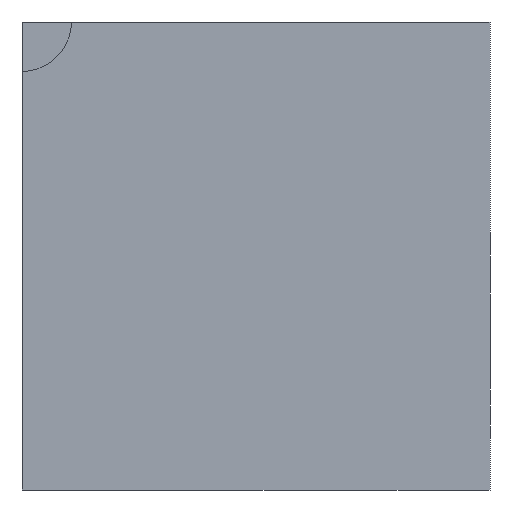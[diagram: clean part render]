
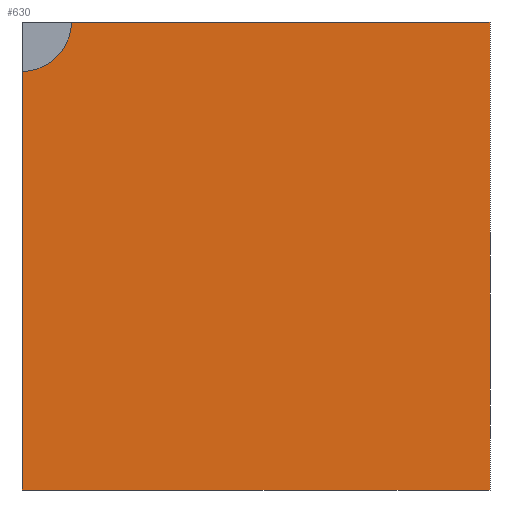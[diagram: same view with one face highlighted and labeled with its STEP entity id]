
A CAD part, front view. The second image highlights one B-rep face of the part: STEP entity #630.
In plain terms, the highlighted planar face has unit normal (0, -1, 0).
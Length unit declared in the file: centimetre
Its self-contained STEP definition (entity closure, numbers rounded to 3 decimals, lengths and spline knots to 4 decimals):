
#8 = LINE ( 'NONE', #439, #314 ) ;
#12 = DIRECTION ( 'NONE',  ( 0., 1., 0. ) ) ;
#50 = ORIENTED_EDGE ( 'NONE', *, *, #397, .T. ) ;
#60 = EDGE_CURVE ( 'NONE', #364, #680, #326, .T. ) ;
#62 = CARTESIAN_POINT ( 'NONE',  ( 0., 0., 1000. ) ) ;
#91 = ORIENTED_EDGE ( 'NONE', *, *, #143, .F. ) ;
#110 = CARTESIAN_POINT ( 'NONE',  ( 0., 0., 0. ) ) ;
#122 = EDGE_LOOP ( 'NONE', ( #91, #477, #274, #50, #678 ) ) ;
#132 = EDGE_CURVE ( 'NONE', #686, #531, #659, .T. ) ;
#141 = VECTOR ( 'NONE', #490, 100. ) ;
#143 = EDGE_CURVE ( 'NONE', #531, #364, #384, .T. ) ;
#153 = EDGE_CURVE ( 'NONE', #686, #400, #8, .T. ) ;
#170 = CARTESIAN_POINT ( 'NONE',  ( 0., 0., 1000. ) ) ;
#193 = CARTESIAN_POINT ( 'NONE',  ( 105.7115, 0., 1000. ) ) ;
#227 = LINE ( 'NONE', #429, #268 ) ;
#264 = DIRECTION ( 'NONE',  ( 1., 0., 0. ) ) ;
#268 = VECTOR ( 'NONE', #264, 100. ) ;
#273 = CARTESIAN_POINT ( 'NONE',  ( 1000., 0., 1000. ) ) ;
#274 = ORIENTED_EDGE ( 'NONE', *, *, #153, .T. ) ;
#281 = DIRECTION ( 'NONE',  ( 0., 0., -1. ) ) ;
#286 = CARTESIAN_POINT ( 'NONE',  ( 0., 0., 1000. ) ) ;
#314 = VECTOR ( 'NONE', #281, 100. ) ;
#326 = LINE ( 'NONE', #273, #480 ) ;
#333 = DIRECTION ( 'NONE',  ( 0., 0., -1. ) ) ;
#364 = VERTEX_POINT ( 'NONE', #391 ) ;
#384 = LINE ( 'NONE', #62, #141 ) ;
#391 = CARTESIAN_POINT ( 'NONE',  ( 1000., 0., 1000. ) ) ;
#397 = EDGE_CURVE ( 'NONE', #400, #680, #227, .T. ) ;
#400 = VERTEX_POINT ( 'NONE', #110 ) ;
#429 = CARTESIAN_POINT ( 'NONE',  ( 0., 0., 0. ) ) ;
#439 = CARTESIAN_POINT ( 'NONE',  ( 0., 0., 1000. ) ) ;
#440 = DIRECTION ( 'NONE',  ( 0., 0., 1. ) ) ;
#448 = FACE_OUTER_BOUND ( 'NONE', #122, .T. ) ;
#451 = CARTESIAN_POINT ( 'NONE',  ( 1000., 0., 0. ) ) ;
#477 = ORIENTED_EDGE ( 'NONE', *, *, #132, .F. ) ;
#480 = VECTOR ( 'NONE', #591, 100. ) ;
#490 = DIRECTION ( 'NONE',  ( 1., 0., 0. ) ) ;
#531 = VERTEX_POINT ( 'NONE', #193 ) ;
#547 = DIRECTION ( 'NONE',  ( 0., -1., 0. ) ) ;
#561 = CARTESIAN_POINT ( 'NONE',  ( 0., 0., 894.2885 ) ) ;
#591 = DIRECTION ( 'NONE',  ( 0., 0., -1. ) ) ;
#630 = ADVANCED_FACE ( 'NONE', ( #448 ), #665, .F. ) ;
#635 = AXIS2_PLACEMENT_3D ( 'NONE', #170, #547, #333 ) ;
#659 = CIRCLE ( 'NONE', #635, 105.7115 ) ;
#665 = PLANE ( 'NONE',  #672 ) ;
#672 = AXIS2_PLACEMENT_3D ( 'NONE', #286, #12, #440 ) ;
#678 = ORIENTED_EDGE ( 'NONE', *, *, #60, .F. ) ;
#680 = VERTEX_POINT ( 'NONE', #451 ) ;
#686 = VERTEX_POINT ( 'NONE', #561 ) ;
